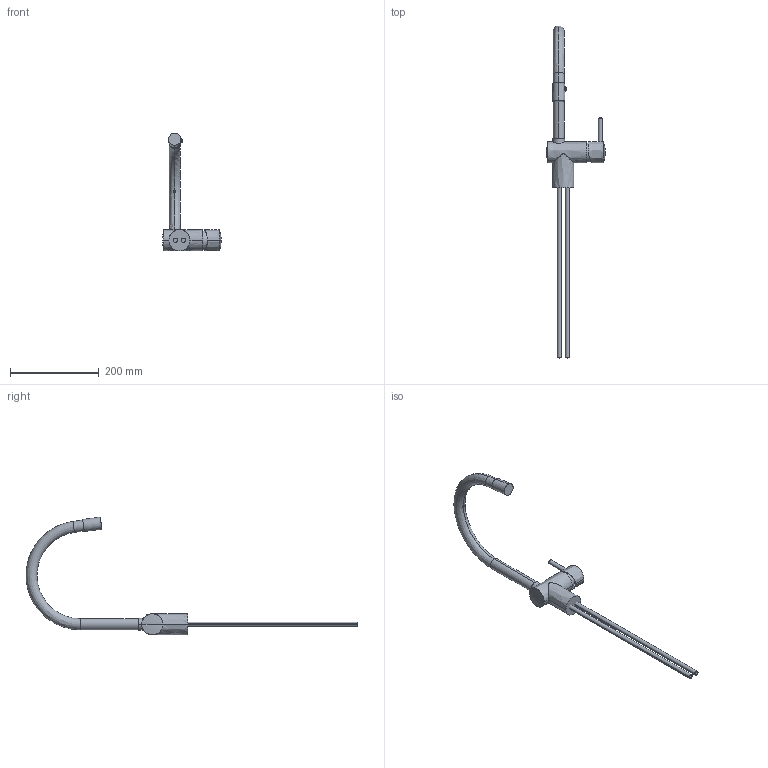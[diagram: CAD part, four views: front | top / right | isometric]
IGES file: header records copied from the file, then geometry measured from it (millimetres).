
Start section:  PTC IGES file: 18120_web.igs
Global section: file name: 18120_web.igs; native system: Creo Parametric by PTC Inc.; preprocessor: 2017380; author: jaj; organization: Unknown; date: 20180705.114446; units: millimetre
Bounding box: 131.5 x 746.41 x 265.27 mm (x, y, z)
Surface area: 132028.7 mm2 (no closed solid volume)
Topology: 0 solids, 0 shells, 55 faces, 354 edges, 398 vertices
Faces by surface type: revolution 49, bspline 6
